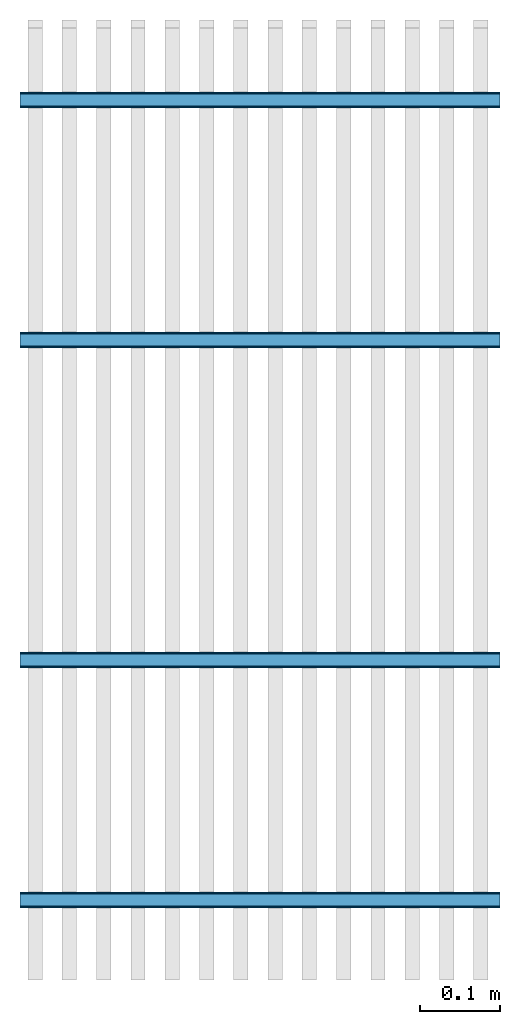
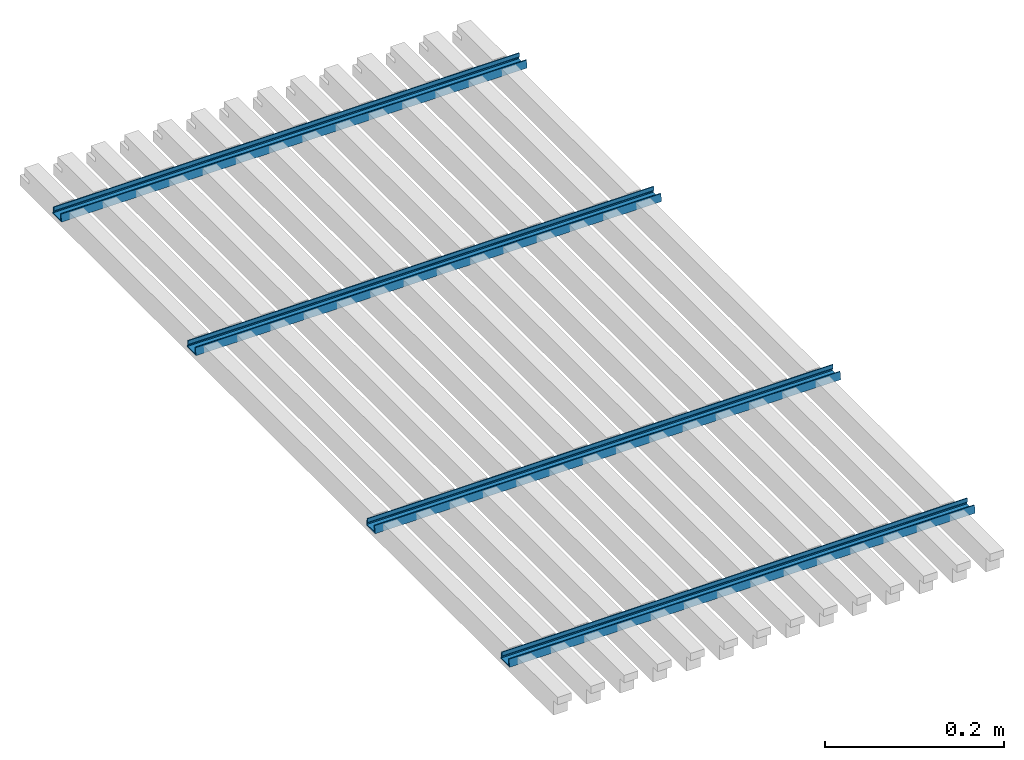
# One storey, part 1 of 3: 4 beams.
"""IFC2X3 building model written with IfcOpenShell, lengths in millimetres."""

from ifc_helpers import new_model, entity, si_unit, converted_unit, money_unit, direction, frame, origin_with_axes, place, context, subcontext, project, spatial, polyline, outline, extrude, material, type_object, element, save


model = new_model("IFC2X3")

# Units and contexts
model_context = context("Model", 3, precision=1e-05, world=origin_with_axes(), true_north=direction((0.0, 1.0)))
body_context = subcontext(model_context, "Body", "Model", "MODEL_VIEW")
ifc_project = project(units=[si_unit("LENGTHUNIT", "METRE", prefix="MILLI"), si_unit("AREAUNIT", "SQUARE_METRE"), si_unit("VOLUMEUNIT", "CUBIC_METRE"), converted_unit("PLANEANGLEUNIT", "DEGREE", entity("IfcPlaneAngleMeasure", 0.0174532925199), si_unit("PLANEANGLEUNIT", "RADIAN"), dimensions=[0, 0, 0, 0, 0, 0, 0]), si_unit("SOLIDANGLEUNIT", "STERADIAN"), money_unit("AUD"), si_unit("TIMEUNIT", "SECOND"), si_unit("MASSUNIT", "GRAM"), si_unit("THERMODYNAMICTEMPERATUREUNIT", "DEGREE_CELSIUS"), si_unit("LUMINOUSINTENSITYUNIT", "LUMEN")], contexts=[model_context])

# Site, building, storey
site_placement = place(None, origin_with_axes())
site = spatial("IfcSite", under=ifc_project, at=site_placement, Name="Site", CompositionType="ELEMENT")
building_placement = place(site_placement, origin_with_axes())
building = spatial("IfcBuilding", under=site, at=building_placement, Name="Building", CompositionType="ELEMENT")
storey_placement = place(building_placement, origin_with_axes())
storey = spatial("IfcBuildingStorey", under=building, at=storey_placement, Name="GROUND", CompositionType="ELEMENT", Elevation=0.0)

# Beams
ifc_material = material(Name="Brick - Internal Wall")
beam_type = type_object("IfcBeamType", Name="15MM GRID 20 x 10", PredefinedType="NOTDEFINED")
for number, where, z_axis, x_axis, name in (
    (1, (2.5, 1100.0, 20.0), (0.0, 0.0, 1.0), (0.0, -1.0, 0.0), "BEAM-02"),
    (2, (2.5, 100.0, 20.0), (0.0, 0.0, 1.0), (0.0, -1.0, 0.0), "BEAM-02"),
    (3, (2.5, 400.0, 20.0), (0.0, 0.0, 1.0), (0.0, -1.0, 0.0), "BEAM-02"),
    (4, (2.5, 800.0, 20.0), (0.0, 0.0, 1.0), (0.0, -1.0, 0.0), "BEAM-02"),
):
    element("IfcBeam", number, at=place(storey_placement, frame(where, z_axis=z_axis, x_axis=x_axis)), inside=storey, type_object=beam_type, material=ifc_material, Name=name, ObjectType="15MM GRID 20 x 10", context=body_context, shape_type="SweptSolid", body=[
        extrude(outline(polyline([(10.0, 0.0), (8.5, 10.0), (7.26018347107, 10.0), (8.06268347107, 4.65), (7.26018347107, 3.5), (8.53518347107, 1.5), (-8.53518347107, 1.5), (-8.23518347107, 3.5), (-7.56832504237, 4.65), (-7.26018347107, 10.0), (-8.5, 10.0), (-10.0, 0.0), (10.0, 0.0)])), frame((0.0, 600.0, 0.0), z_axis=(0.0, -1.0, 0.0), x_axis=(1.0, 0.0, 0.0)), (0.0, 0.0, 1.0), 600.0),
    ])

save(model, "model.ifc")
